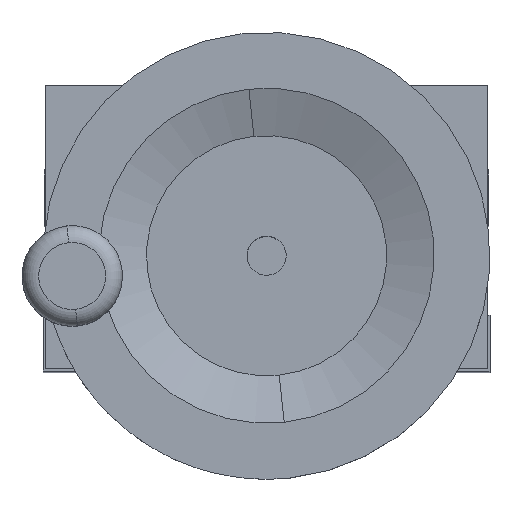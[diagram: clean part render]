
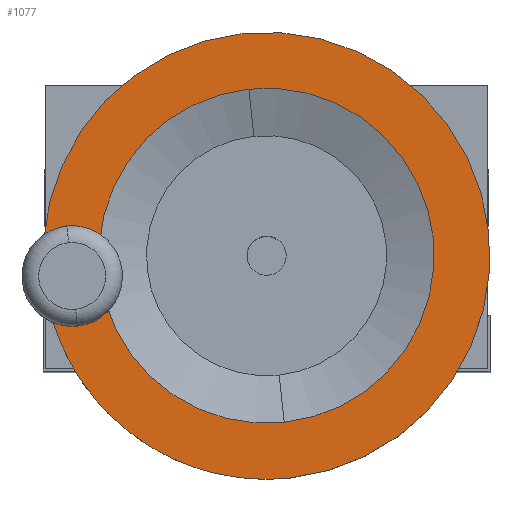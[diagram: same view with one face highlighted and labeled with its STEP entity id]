
A CAD part, top view. The second image highlights one B-rep face of the part: STEP entity #1077.
In plain terms, the highlighted planar face has unit normal (0, 0, 1) as drawn and (1, 0, 0) by its records, which use the part's own axes.
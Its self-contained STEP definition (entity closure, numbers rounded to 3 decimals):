
#879 = ORIENTED_EDGE ( 'NONE', *, *, #6987, .T. ) ;
#961 = ORIENTED_EDGE ( 'NONE', *, *, #1115, .F. ) ;
#1039 = EDGE_LOOP ( 'NONE', ( #961, #879, #2238, #2060, #1936, #1854, #1711, #1578, #6068, #5570 ) ) ;
#1077 = ADVANCED_FACE ( 'NONE', ( #4243 ), #4252, .T. ) ;
#1085 = VERTEX_POINT ( 'NONE', #4301 ) ;
#1115 = EDGE_CURVE ( 'NONE', #6757, #1085, #4483, .T. ) ;
#1412 = VERTEX_POINT ( 'NONE', #6236 ) ;
#1451 = EDGE_CURVE ( 'NONE', #1412, #6757, #6453, .T. ) ;
#1483 = VERTEX_POINT ( 'NONE', #6598 ) ;
#1508 = EDGE_CURVE ( 'NONE', #1483, #7139, #6786, .T. ) ;
#1578 = ORIENTED_EDGE ( 'NONE', *, *, #1451, .T. ) ;
#1653 = EDGE_CURVE ( 'NONE', #2140, #1412, #7444, .T. ) ;
#1711 = ORIENTED_EDGE ( 'NONE', *, *, #1653, .T. ) ;
#1797 = EDGE_CURVE ( 'NONE', #7139, #2140, #8224, .T. ) ;
#1854 = ORIENTED_EDGE ( 'NONE', *, *, #1797, .T. ) ;
#1876 = EDGE_CURVE ( 'NONE', #2013, #6757, #8545, .T. ) ;
#1936 = ORIENTED_EDGE ( 'NONE', *, *, #1508, .T. ) ;
#2013 = VERTEX_POINT ( 'NONE', #9152 ) ;
#2014 = EDGE_CURVE ( 'NONE', #2140, #1483, #9153, .T. ) ;
#2060 = ORIENTED_EDGE ( 'NONE', *, *, #2014, .T. ) ;
#2140 = VERTEX_POINT ( 'NONE', #9611 ) ;
#2182 = EDGE_CURVE ( 'NONE', #7874, #2140, #9705, .T. ) ;
#2238 = ORIENTED_EDGE ( 'NONE', *, *, #2182, .T. ) ;
#4243 = FACE_OUTER_BOUND ( 'NONE', #1039, .T. ) ;
#4252 = PLANE ( 'NONE',  #4253 ) ;
#4253 = AXIS2_PLACEMENT_3D ( 'NONE', #4254, #4255, #4256 ) ;
#4254 = CARTESIAN_POINT ( 'NONE',  ( 31., 40., 0. ) ) ;
#4255 = DIRECTION ( 'NONE',  ( 1., 0., 0. ) ) ;
#4256 = DIRECTION ( 'NONE',  ( 0., 0., -1. ) ) ;
#4301 = CARTESIAN_POINT ( 'NONE',  ( 31., 0., -40. ) ) ;
#4483 = CIRCLE ( 'NONE', #4484, 40. ) ;
#4484 = AXIS2_PLACEMENT_3D ( 'NONE', #4485, #4486, #4487 ) ;
#4485 = CARTESIAN_POINT ( 'NONE',  ( 31., 0., 0. ) ) ;
#4486 = DIRECTION ( 'NONE',  ( -1., 0., 0. ) ) ;
#4487 = DIRECTION ( 'NONE',  ( 0., 0., 1. ) ) ;
#5211 = EDGE_CURVE ( 'NONE', #1085, #2013, #5876, .T. ) ;
#5570 = ORIENTED_EDGE ( 'NONE', *, *, #5211, .F. ) ;
#5876 = CIRCLE ( 'NONE', #5877, 40. ) ;
#5877 = AXIS2_PLACEMENT_3D ( 'NONE', #5878, #5879, #5880 ) ;
#5878 = CARTESIAN_POINT ( 'NONE',  ( 31., 0., 0. ) ) ;
#5879 = DIRECTION ( 'NONE',  ( -1., 0., 0. ) ) ;
#5880 = DIRECTION ( 'NONE',  ( 0., 0., 1. ) ) ;
#6068 = ORIENTED_EDGE ( 'NONE', *, *, #1876, .F. ) ;
#6236 = CARTESIAN_POINT ( 'NONE',  ( 31., 35., 5. ) ) ;
#6453 = CIRCLE ( 'NONE', #6454, 5. ) ;
#6454 = AXIS2_PLACEMENT_3D ( 'NONE', #6455, #6456, #6457 ) ;
#6455 = CARTESIAN_POINT ( 'NONE',  ( 31., 35., 0. ) ) ;
#6456 = DIRECTION ( 'NONE',  ( -1., 0., 0. ) ) ;
#6457 = DIRECTION ( 'NONE',  ( 0., 0., 1. ) ) ;
#6598 = CARTESIAN_POINT ( 'NONE',  ( 31., 0., -30. ) ) ;
#6757 = VERTEX_POINT ( 'NONE', #7035 ) ;
#6786 = CIRCLE ( 'NONE', #6787, 30. ) ;
#6787 = AXIS2_PLACEMENT_3D ( 'NONE', #6788, #6789, #6790 ) ;
#6788 = CARTESIAN_POINT ( 'NONE',  ( 31., 0., 0. ) ) ;
#6789 = DIRECTION ( 'NONE',  ( -1., 0., 0. ) ) ;
#6790 = DIRECTION ( 'NONE',  ( 0., 0., 1. ) ) ;
#6987 = EDGE_CURVE ( 'NONE', #6757, #7874, #7145, .T. ) ;
#7035 = CARTESIAN_POINT ( 'NONE',  ( 31., 40., 0. ) ) ;
#7139 = VERTEX_POINT ( 'NONE', #7277 ) ;
#7145 = CIRCLE ( 'NONE', #7146, 5. ) ;
#7146 = AXIS2_PLACEMENT_3D ( 'NONE', #7147, #7148, #7149 ) ;
#7147 = CARTESIAN_POINT ( 'NONE',  ( 31., 35., 0. ) ) ;
#7148 = DIRECTION ( 'NONE',  ( -1., 0., 0. ) ) ;
#7149 = DIRECTION ( 'NONE',  ( 0., 0., 1. ) ) ;
#7277 = CARTESIAN_POINT ( 'NONE',  ( 31., 0., 30. ) ) ;
#7444 = CIRCLE ( 'NONE', #7445, 5. ) ;
#7445 = AXIS2_PLACEMENT_3D ( 'NONE', #7446, #7447, #7448 ) ;
#7446 = CARTESIAN_POINT ( 'NONE',  ( 31., 35., 0. ) ) ;
#7447 = DIRECTION ( 'NONE',  ( -1., 0., 0. ) ) ;
#7448 = DIRECTION ( 'NONE',  ( 0., 0., 1. ) ) ;
#7868 = CARTESIAN_POINT ( 'NONE',  ( 31., 35., -5. ) ) ;
#7874 = VERTEX_POINT ( 'NONE', #7868 ) ;
#8224 = CIRCLE ( 'NONE', #8225, 30. ) ;
#8225 = AXIS2_PLACEMENT_3D ( 'NONE', #8226, #8227, #8228 ) ;
#8226 = CARTESIAN_POINT ( 'NONE',  ( 31., 0., 0. ) ) ;
#8227 = DIRECTION ( 'NONE',  ( -1., 0., 0. ) ) ;
#8228 = DIRECTION ( 'NONE',  ( 0., 0., 1. ) ) ;
#8545 = CIRCLE ( 'NONE', #8546, 40. ) ;
#8546 = AXIS2_PLACEMENT_3D ( 'NONE', #8547, #8548, #8549 ) ;
#8547 = CARTESIAN_POINT ( 'NONE',  ( 31., 0., 0. ) ) ;
#8548 = DIRECTION ( 'NONE',  ( -1., 0., 0. ) ) ;
#8549 = DIRECTION ( 'NONE',  ( 0., 0., 1. ) ) ;
#9152 = CARTESIAN_POINT ( 'NONE',  ( 31., 0., 40. ) ) ;
#9153 = CIRCLE ( 'NONE', #9154, 30. ) ;
#9154 = AXIS2_PLACEMENT_3D ( 'NONE', #9155, #9156, #9157 ) ;
#9155 = CARTESIAN_POINT ( 'NONE',  ( 31., 0., 0. ) ) ;
#9156 = DIRECTION ( 'NONE',  ( -1., 0., 0. ) ) ;
#9157 = DIRECTION ( 'NONE',  ( 0., 0., 1. ) ) ;
#9611 = CARTESIAN_POINT ( 'NONE',  ( 31., 30., 0. ) ) ;
#9705 = CIRCLE ( 'NONE', #9706, 5. ) ;
#9706 = AXIS2_PLACEMENT_3D ( 'NONE', #9707, #9708, #9709 ) ;
#9707 = CARTESIAN_POINT ( 'NONE',  ( 31., 35., 0. ) ) ;
#9708 = DIRECTION ( 'NONE',  ( -1., 0., 0. ) ) ;
#9709 = DIRECTION ( 'NONE',  ( 0., 0., 1. ) ) ;
